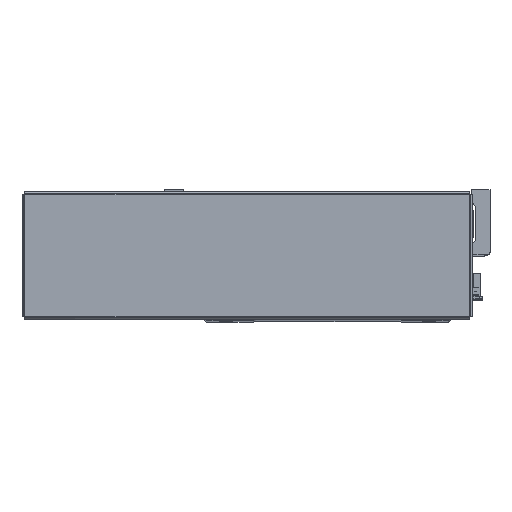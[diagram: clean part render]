
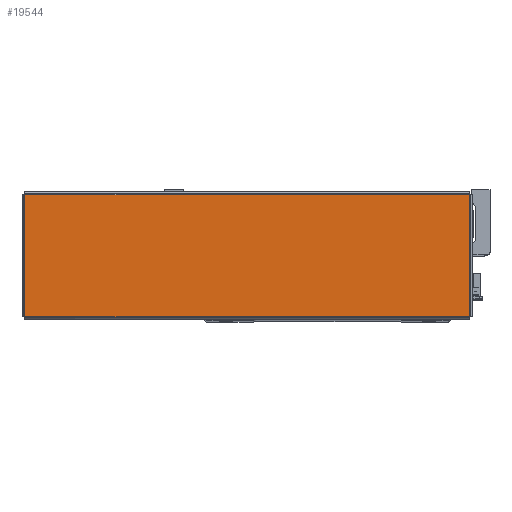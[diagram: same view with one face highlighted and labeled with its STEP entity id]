
A CAD part, top view. The second image highlights one B-rep face of the part: STEP entity #19544.
In plain terms, the highlighted planar face has unit normal (0, 0, 1) as drawn and (0, -1, 0) by its records, which use the part's own axes.
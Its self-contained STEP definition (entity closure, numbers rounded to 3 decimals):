
#7788 = VECTOR ( 'NONE', #10670, 1000. ) ;
#7826 = LINE ( 'NONE', #10646, #7788 ) ;
#7832 = LINE ( 'NONE', #10600, #7836 ) ;
#7836 = VECTOR ( 'NONE', #10612, 1000. ) ;
#10513 = CARTESIAN_POINT ( 'NONE',  ( 154.043, -1.2, 42.263 ) ) ;
#10518 = DIRECTION ( 'NONE',  ( -1., 0., 0. ) ) ;
#10557 = DIRECTION ( 'NONE',  ( 0., 0., -1. ) ) ;
#10593 = CARTESIAN_POINT ( 'NONE',  ( -154.013, -1.2, 42.293 ) ) ;
#10600 = CARTESIAN_POINT ( 'NONE',  ( 154.013, -1.2, -42.293 ) ) ;
#10612 = DIRECTION ( 'NONE',  ( 0., 0., 1. ) ) ;
#10646 = CARTESIAN_POINT ( 'NONE',  ( -154.043, -1.2, -42.263 ) ) ;
#10670 = DIRECTION ( 'NONE',  ( 1., 0., 0. ) ) ;
#12346 = AXIS2_PLACEMENT_3D ( 'NONE', #30997, #31004, #31005 ) ;
#19544 = ADVANCED_FACE ( 'NONE', ( #40182 ), #31029, .F. ) ;
#21246 = LINE ( 'NONE', #10593, #21365 ) ;
#21365 = VECTOR ( 'NONE', #10557, 1000. ) ;
#21738 = LINE ( 'NONE', #10513, #21821 ) ;
#21821 = VECTOR ( 'NONE', #10518, 1000. ) ;
#30997 = CARTESIAN_POINT ( 'NONE',  ( 0., -1.2, 0. ) ) ;
#31004 = DIRECTION ( 'NONE',  ( 0., 1., 0. ) ) ;
#31005 = DIRECTION ( 'NONE',  ( 0., 0., 1. ) ) ;
#31029 = PLANE ( 'NONE',  #12346 ) ;
#33106 = CARTESIAN_POINT ( 'NONE',  ( 154.013, -1.2, 42.263 ) ) ;
#33162 = CARTESIAN_POINT ( 'NONE',  ( -154.013, -1.2, -42.263 ) ) ;
#33168 = CARTESIAN_POINT ( 'NONE',  ( -154.013, -1.2, 42.263 ) ) ;
#33174 = CARTESIAN_POINT ( 'NONE',  ( 154.013, -1.2, -42.263 ) ) ;
#40182 = FACE_OUTER_BOUND ( 'NONE', #42215, .T. ) ;
#42215 = EDGE_LOOP ( 'NONE', ( #43124, #43196, #43164, #43087 ) ) ;
#43087 = ORIENTED_EDGE ( 'NONE', *, *, #47794, .T. ) ;
#43124 = ORIENTED_EDGE ( 'NONE', *, *, #47774, .T. ) ;
#43164 = ORIENTED_EDGE ( 'NONE', *, *, #47767, .T. ) ;
#43196 = ORIENTED_EDGE ( 'NONE', *, *, #47761, .T. ) ;
#43651 = VERTEX_POINT ( 'NONE', #33106 ) ;
#43697 = VERTEX_POINT ( 'NONE', #33168 ) ;
#43704 = VERTEX_POINT ( 'NONE', #33174 ) ;
#43728 = VERTEX_POINT ( 'NONE', #33162 ) ;
#47761 = EDGE_CURVE ( 'NONE', #43651, #43697, #21738, .T. ) ;
#47767 = EDGE_CURVE ( 'NONE', #43697, #43728, #21246, .T. ) ;
#47774 = EDGE_CURVE ( 'NONE', #43704, #43651, #7832, .T. ) ;
#47794 = EDGE_CURVE ( 'NONE', #43728, #43704, #7826, .T. ) ;
